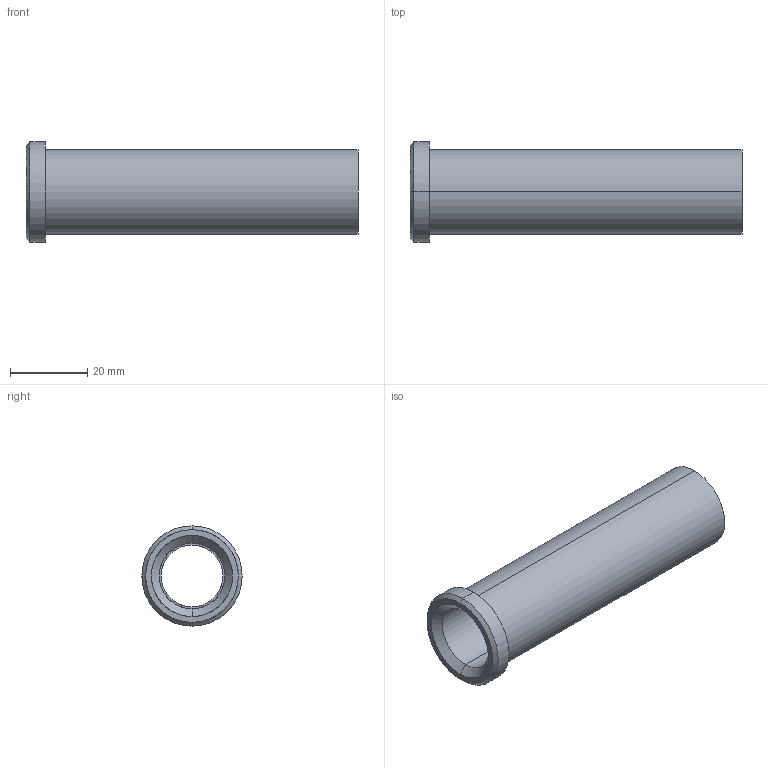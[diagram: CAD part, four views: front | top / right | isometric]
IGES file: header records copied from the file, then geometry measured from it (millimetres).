
Start section: START RECORD GO HERE.
Global section: file name: 353-16X86.igs; native system: DASSAULT SYSTEMES CATIA V5 R20 - www.3ds.com; preprocessor: CATIA Version 5 Release 20 ; author: Utente; organization: NB04-ASUS; date: 20210504.201447; units: millimetre
Bounding box: 86 x 26 x 26 mm (x, y, z)
Surface area: 11031.3 mm2 (no closed solid volume)
Topology: 0 solids, 0 shells, 18 faces, 116 edges, 116 vertices
Faces by surface type: revolution 14, plane 4
